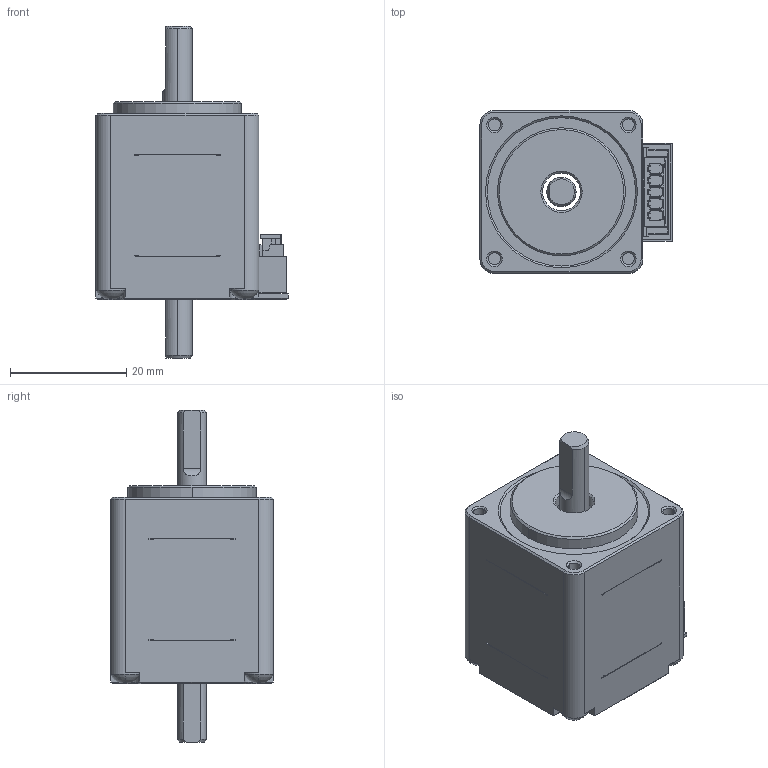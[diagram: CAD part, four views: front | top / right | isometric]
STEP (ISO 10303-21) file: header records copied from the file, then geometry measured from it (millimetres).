
FILE_DESCRIPTION((''),'2;1');
FILE_NAME('3_1_01_028_00652_SW0001','2026-04-25T09:00:54',('xujiajun'),(''),'CREO PARAMETRIC BY PTC INC, 2017110','CREO PARAMETRIC BY PTC INC, 2017110','');
FILE_SCHEMA(('CONFIG_CONTROL_DESIGN'));
Length unit declared in the file: millimetre
Products named in the file (1): 3_1_01_028_00652_SW0001
Bounding box: 33 x 28 x 57.05 mm (x, y, z)
Volume: 8966 mm3; surface area: 13458 mm2
Topology: 3 solids, 3 shells, 779 faces, 2175 edges, 1390 vertices
Faces by surface type: plane 535, cylinder 176, cone 52, sphere 8, torus 8
Entity records: 25650 total; most frequent: CARTESIAN_POINT 5204, ORIENTED_EDGE 4350, DIRECTION 4185, EDGE_CURVE 2175, VECTOR 1537, LINE 1537, VERTEX_POINT 1390, AXIS2_PLACEMENT_3D 1324
